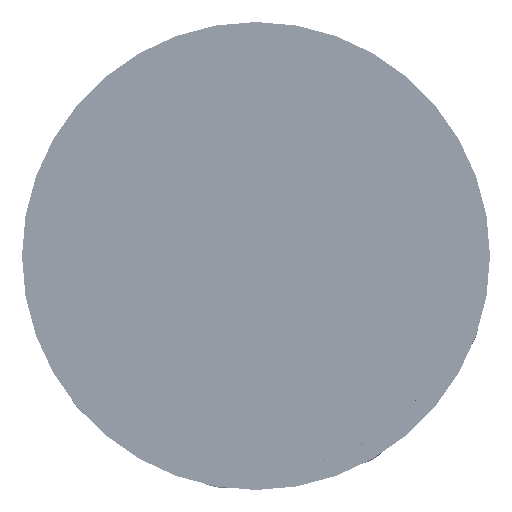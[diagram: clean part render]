
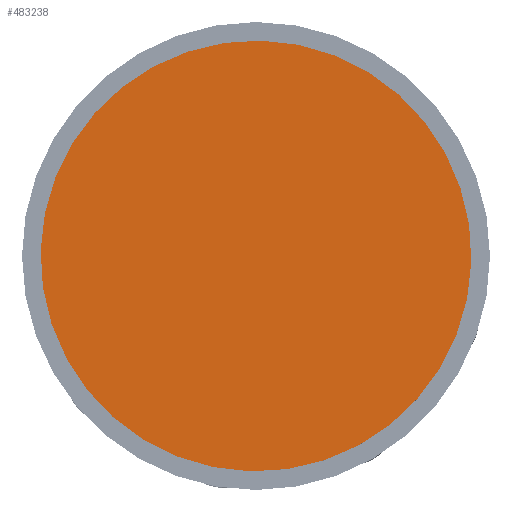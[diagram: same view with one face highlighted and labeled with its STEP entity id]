
A CAD part, top view. The second image highlights one B-rep face of the part: STEP entity #483238.
In plain terms, the highlighted planar face has unit normal (0, 0, 1).
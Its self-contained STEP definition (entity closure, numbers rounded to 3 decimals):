
#125173=FACE_OUTER_BOUND('',#150013,.T.);
#150013=EDGE_LOOP('',(#439392));
#174770=CIRCLE('',#532205,290.);
#222753=VERTEX_POINT('',#844955);
#294999=EDGE_CURVE('',#222753,#222753,#174770,.T.);
#439392=ORIENTED_EDGE('',*,*,#294999,.T.);
#458671=PLANE('',#532204);
#483238=ADVANCED_FACE('',(#125173),#458671,.T.);
#532204=AXIS2_PLACEMENT_3D('',#844954,#675824,#675825);
#532205=AXIS2_PLACEMENT_3D('',#844956,#675826,#675827);
#675824=DIRECTION('center_axis',(0.,0.,
1.));
#675825=DIRECTION('ref_axis',(0.783,0.622,0.));
#675826=DIRECTION('center_axis',(0.,0.,
1.));
#675827=DIRECTION('ref_axis',(0.783,0.622,0.));
#844954=CARTESIAN_POINT('Origin',(0.,0.,
1132.04));
#844955=CARTESIAN_POINT('',(-227.051,-180.411,1132.04));
#844956=CARTESIAN_POINT('Origin',(0.,0.,
1132.04));
